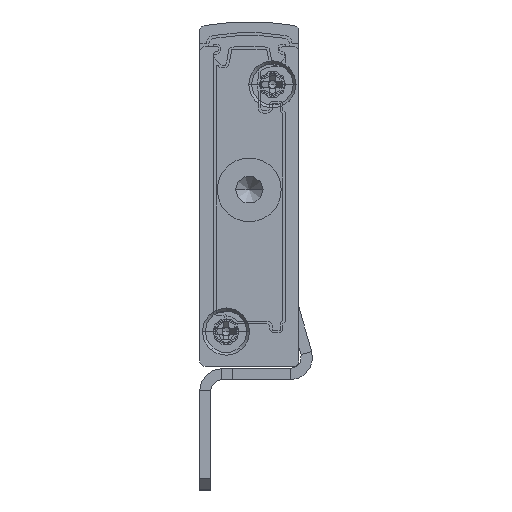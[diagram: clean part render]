
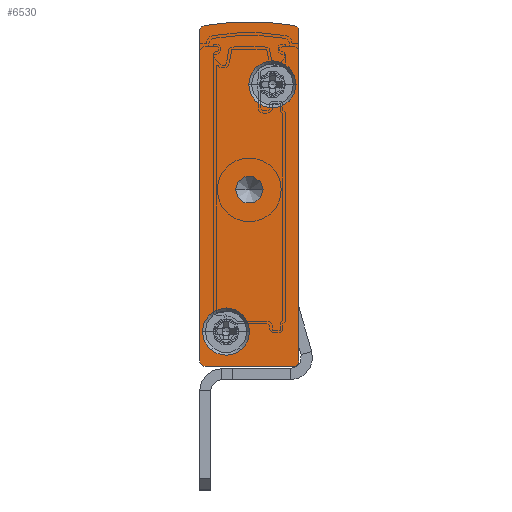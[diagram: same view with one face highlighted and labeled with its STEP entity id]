
A CAD part, front view. The second image highlights one B-rep face of the part: STEP entity #6530.
In plain terms, the highlighted planar face has unit normal (0, -1, 0).
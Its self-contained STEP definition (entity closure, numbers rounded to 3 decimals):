
#44 = EDGE_CURVE ( 'NONE', #5985, #24755, #12693, .T. ) ;
#720 = EDGE_CURVE ( 'NONE', #18815, #5985, #10876, .T. ) ;
#1004 = ORIENTED_EDGE ( 'NONE', *, *, #9232, .F. ) ;
#1211 = CARTESIAN_POINT ( 'NONE',  ( -8.5, -2.5, 30.402 ) ) ;
#1342 = DIRECTION ( 'NONE',  ( -1., 0., 0. ) ) ;
#2158 = DIRECTION ( 'NONE',  ( 0., 1., 0. ) ) ;
#2174 = ORIENTED_EDGE ( 'NONE', *, *, #25544, .F. ) ;
#2306 = VERTEX_POINT ( 'NONE', #19513 ) ;
#2328 = EDGE_CURVE ( 'NONE', #2306, #11863, #38365, .T. ) ;
#2483 = DIRECTION ( 'NONE',  ( 0., -1., 0. ) ) ;
#2725 = VECTOR ( 'NONE', #8106, 1000. ) ;
#2993 = CARTESIAN_POINT ( 'NONE',  ( -3.25, -2.5, 16. ) ) ;
#2996 = CIRCLE ( 'NONE', #7590, 0.5 ) ;
#3855 = DIRECTION ( 'NONE',  ( 1., 0., 0. ) ) ;
#3976 = CARTESIAN_POINT ( 'NONE',  ( 0., -2.5, 0.5 ) ) ;
#4083 = EDGE_CURVE ( 'NONE', #35440, #38780, #9197, .T. ) ;
#4485 = CARTESIAN_POINT ( 'NONE',  ( -4.5, -2.5, 16. ) ) ;
#4832 = EDGE_CURVE ( 'NONE', #19316, #28871, #20312, .T. ) ;
#4962 = ORIENTED_EDGE ( 'NONE', *, *, #33641, .F. ) ;
#5775 = DIRECTION ( 'NONE',  ( 0., 1., 0. ) ) ;
#5807 = CARTESIAN_POINT ( 'NONE',  ( -9., -2.5, 30.402 ) ) ;
#5985 = VERTEX_POINT ( 'NONE', #14924 ) ;
#6000 = ORIENTED_EDGE ( 'NONE', *, *, #720, .F. ) ;
#6530 = ADVANCED_FACE ( 'NONE', ( #23070, #13575, #10711, #8808 ), #20043, .F. ) ;
#6623 = DIRECTION ( 'NONE',  ( -1., 0., 0. ) ) ;
#6740 = CARTESIAN_POINT ( 'NONE',  ( -4.5, -2.5, 16. ) ) ;
#7019 = EDGE_LOOP ( 'NONE', ( #32501, #25500 ) ) ;
#7061 = CARTESIAN_POINT ( 'NONE',  ( -8.5, -2.5, 0.5 ) ) ;
#7590 = AXIS2_PLACEMENT_3D ( 'NONE', #1211, #7620, #1342 ) ;
#7620 = DIRECTION ( 'NONE',  ( 0., 1., 0. ) ) ;
#7791 = CARTESIAN_POINT ( 'NONE',  ( -8.592, -2.5, 30.893 ) ) ;
#7850 = ORIENTED_EDGE ( 'NONE', *, *, #4083, .F. ) ;
#7938 = EDGE_CURVE ( 'NONE', #37007, #23950, #13764, .T. ) ;
#8106 = DIRECTION ( 'NONE',  ( -1., 0., 0. ) ) ;
#8401 = CARTESIAN_POINT ( 'NONE',  ( 0., -2.5, 30.402 ) ) ;
#8808 = FACE_BOUND ( 'NONE', #7019, .T. ) ;
#9197 = CIRCLE ( 'NONE', #36317, 0.5 ) ;
#9232 = EDGE_CURVE ( 'NONE', #23950, #37007, #27437, .T. ) ;
#9385 = AXIS2_PLACEMENT_3D ( 'NONE', #4485, #19795, #13695 ) ;
#9895 = CIRCLE ( 'NONE', #28507, 2.15 ) ;
#10062 = AXIS2_PLACEMENT_3D ( 'NONE', #33792, #24865, #6623 ) ;
#10124 = DIRECTION ( 'NONE',  ( 0., 1., 0. ) ) ;
#10653 = DIRECTION ( 'NONE',  ( -1., 0., 0. ) ) ;
#10711 = FACE_OUTER_BOUND ( 'NONE', #18319, .T. ) ;
#10876 = CIRCLE ( 'NONE', #10062, 0.5 ) ;
#11022 = ORIENTED_EDGE ( 'NONE', *, *, #18424, .F. ) ;
#11543 = CARTESIAN_POINT ( 'NONE',  ( -8.5, -2.5, 0. ) ) ;
#11747 = ORIENTED_EDGE ( 'NONE', *, *, #44, .F. ) ;
#11863 = VERTEX_POINT ( 'NONE', #2993 ) ;
#12144 = AXIS2_PLACEMENT_3D ( 'NONE', #31660, #34718, #16643 ) ;
#12693 = LINE ( 'NONE', #11543, #2725 ) ;
#12878 = DIRECTION ( 'NONE',  ( -1., 0., 0. ) ) ;
#12948 = EDGE_LOOP ( 'NONE', ( #26018, #2174 ) ) ;
#13244 = EDGE_CURVE ( 'NONE', #33858, #29456, #2996, .T. ) ;
#13575 = FACE_BOUND ( 'NONE', #20727, .T. ) ;
#13695 = DIRECTION ( 'NONE',  ( -1., 0., 0. ) ) ;
#13708 = DIRECTION ( 'NONE',  ( 0., 0., -1. ) ) ;
#13764 = CIRCLE ( 'NONE', #20696, 2.15 ) ;
#14386 = ORIENTED_EDGE ( 'NONE', *, *, #7938, .F. ) ;
#14650 = DIRECTION ( 'NONE',  ( 0., -1., 0. ) ) ;
#14662 = AXIS2_PLACEMENT_3D ( 'NONE', #32686, #2483, #36033 ) ;
#14924 = CARTESIAN_POINT ( 'NONE',  ( -0.5, -2.5, 0. ) ) ;
#14985 = CARTESIAN_POINT ( 'NONE',  ( -4.55, -2.5, 25.55 ) ) ;
#16002 = DIRECTION ( 'NONE',  ( -1., 0., 0. ) ) ;
#16170 = AXIS2_PLACEMENT_3D ( 'NONE', #23945, #2158, #20497 ) ;
#16517 = EDGE_CURVE ( 'NONE', #11863, #2306, #31135, .T. ) ;
#16643 = DIRECTION ( 'NONE',  ( 1., 0., 0. ) ) ;
#16889 = VERTEX_POINT ( 'NONE', #31445 ) ;
#17467 = VECTOR ( 'NONE', #13708, 1000. ) ;
#18048 = DIRECTION ( 'NONE',  ( -1., 0., 0. ) ) ;
#18081 = ORIENTED_EDGE ( 'NONE', *, *, #18867, .F. ) ;
#18319 = EDGE_LOOP ( 'NONE', ( #27608, #11022, #39032, #11747, #6000, #18081, #7850, #4962 ) ) ;
#18424 = EDGE_CURVE ( 'NONE', #16889, #33858, #22261, .T. ) ;
#18441 = CARTESIAN_POINT ( 'NONE',  ( -4.45, -2.5, 3.15 ) ) ;
#18815 = VERTEX_POINT ( 'NONE', #3976 ) ;
#18867 = EDGE_CURVE ( 'NONE', #38780, #18815, #33120, .T. ) ;
#19152 = CARTESIAN_POINT ( 'NONE',  ( -2.4, -2.5, 25.55 ) ) ;
#19316 = VERTEX_POINT ( 'NONE', #21767 ) ;
#19513 = CARTESIAN_POINT ( 'NONE',  ( -5.75, -2.5, 16. ) ) ;
#19648 = AXIS2_PLACEMENT_3D ( 'NONE', #7061, #10124, #16002 ) ;
#19795 = DIRECTION ( 'NONE',  ( 0., 1., 0. ) ) ;
#20043 = PLANE ( 'NONE',  #20875 ) ;
#20312 = CIRCLE ( 'NONE', #12144, 2.15 ) ;
#20353 = CARTESIAN_POINT ( 'NONE',  ( -0.5, -2.5, 30.402 ) ) ;
#20497 = DIRECTION ( 'NONE',  ( -1., 0., 0. ) ) ;
#20696 = AXIS2_PLACEMENT_3D ( 'NONE', #23399, #14650, #32846 ) ;
#20727 = EDGE_LOOP ( 'NONE', ( #14386, #1004 ) ) ;
#20861 = DIRECTION ( 'NONE',  ( 0., 0., 1. ) ) ;
#20875 = AXIS2_PLACEMENT_3D ( 'NONE', #24160, #5775, #18048 ) ;
#21767 = CARTESIAN_POINT ( 'NONE',  ( -0.25, -2.5, 25.55 ) ) ;
#22261 = LINE ( 'NONE', #5807, #26990 ) ;
#22642 = CARTESIAN_POINT ( 'NONE',  ( -8.75, -2.5, 3.15 ) ) ;
#22763 = DIRECTION ( 'NONE',  ( 0., 1., 0. ) ) ;
#23039 = CIRCLE ( 'NONE', #19648, 0.5 ) ;
#23070 = FACE_BOUND ( 'NONE', #12948, .T. ) ;
#23399 = CARTESIAN_POINT ( 'NONE',  ( -6.6, -2.5, 3.15 ) ) ;
#23945 = CARTESIAN_POINT ( 'NONE',  ( -4.5, -2.5, 7.592 ) ) ;
#23950 = VERTEX_POINT ( 'NONE', #22642 ) ;
#24051 = AXIS2_PLACEMENT_3D ( 'NONE', #6740, #31091, #12878 ) ;
#24160 = CARTESIAN_POINT ( 'NONE',  ( -8.5, -2.5, 30.402 ) ) ;
#24755 = VERTEX_POINT ( 'NONE', #36289 ) ;
#24865 = DIRECTION ( 'NONE',  ( 0., 1., 0. ) ) ;
#25500 = ORIENTED_EDGE ( 'NONE', *, *, #16517, .T. ) ;
#25544 = EDGE_CURVE ( 'NONE', #28871, #19316, #9895, .T. ) ;
#26018 = ORIENTED_EDGE ( 'NONE', *, *, #4832, .F. ) ;
#26990 = VECTOR ( 'NONE', #20861, 1000. ) ;
#27437 = CIRCLE ( 'NONE', #14662, 2.15 ) ;
#27608 = ORIENTED_EDGE ( 'NONE', *, *, #13244, .F. ) ;
#28507 = AXIS2_PLACEMENT_3D ( 'NONE', #19152, #37930, #3855 ) ;
#28871 = VERTEX_POINT ( 'NONE', #14985 ) ;
#29456 = VERTEX_POINT ( 'NONE', #7791 ) ;
#30328 = CIRCLE ( 'NONE', #16170, 23.658 ) ;
#31091 = DIRECTION ( 'NONE',  ( 0., 1., 0. ) ) ;
#31135 = CIRCLE ( 'NONE', #24051, 1.25 ) ;
#31445 = CARTESIAN_POINT ( 'NONE',  ( -9., -2.5, 0.5 ) ) ;
#31597 = CARTESIAN_POINT ( 'NONE',  ( -0.408, -2.5, 30.893 ) ) ;
#31660 = CARTESIAN_POINT ( 'NONE',  ( -2.4, -2.5, 25.55 ) ) ;
#31916 = CARTESIAN_POINT ( 'NONE',  ( 0., -2.5, 30.402 ) ) ;
#32137 = EDGE_CURVE ( 'NONE', #24755, #16889, #23039, .T. ) ;
#32501 = ORIENTED_EDGE ( 'NONE', *, *, #2328, .T. ) ;
#32686 = CARTESIAN_POINT ( 'NONE',  ( -6.6, -2.5, 3.15 ) ) ;
#32846 = DIRECTION ( 'NONE',  ( 1., 0., 0. ) ) ;
#33120 = LINE ( 'NONE', #31916, #17467 ) ;
#33641 = EDGE_CURVE ( 'NONE', #29456, #35440, #30328, .T. ) ;
#33792 = CARTESIAN_POINT ( 'NONE',  ( -0.5, -2.5, 0.5 ) ) ;
#33858 = VERTEX_POINT ( 'NONE', #36827 ) ;
#34718 = DIRECTION ( 'NONE',  ( 0., -1., 0. ) ) ;
#35440 = VERTEX_POINT ( 'NONE', #31597 ) ;
#36033 = DIRECTION ( 'NONE',  ( 1., 0., 0. ) ) ;
#36289 = CARTESIAN_POINT ( 'NONE',  ( -8.5, -2.5, 0. ) ) ;
#36317 = AXIS2_PLACEMENT_3D ( 'NONE', #20353, #22763, #10653 ) ;
#36827 = CARTESIAN_POINT ( 'NONE',  ( -9., -2.5, 30.402 ) ) ;
#37007 = VERTEX_POINT ( 'NONE', #18441 ) ;
#37930 = DIRECTION ( 'NONE',  ( 0., -1., 0. ) ) ;
#38365 = CIRCLE ( 'NONE', #9385, 1.25 ) ;
#38780 = VERTEX_POINT ( 'NONE', #8401 ) ;
#39032 = ORIENTED_EDGE ( 'NONE', *, *, #32137, .F. ) ;
